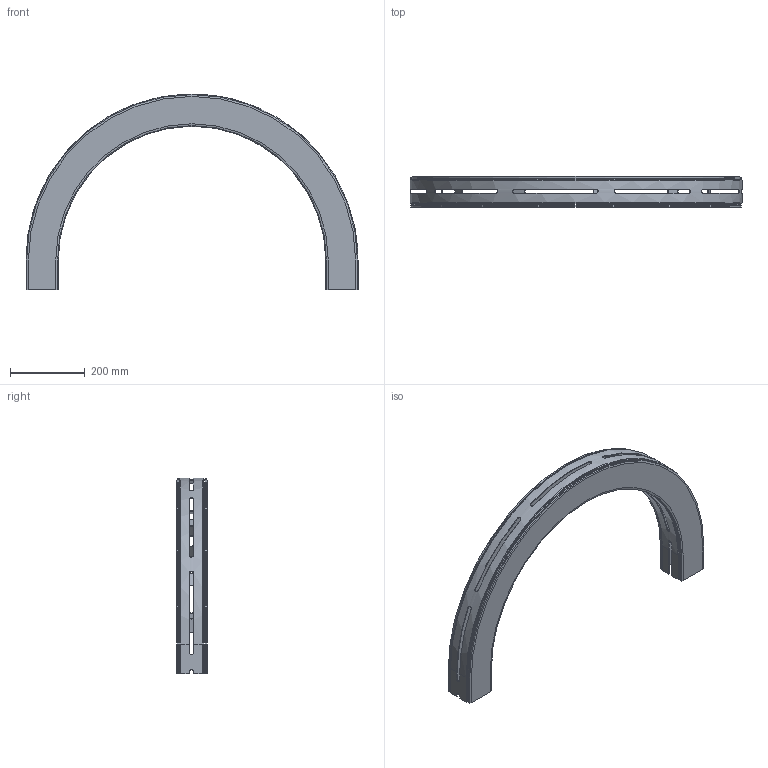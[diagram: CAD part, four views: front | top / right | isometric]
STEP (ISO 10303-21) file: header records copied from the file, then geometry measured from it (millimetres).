
FILE_DESCRIPTION(/* description */ ('GLIDKURVA SERIE 530'),/* implementation_level */ '2;1');
FILE_NAME(/* name */ '530-5375+830-2000-01.stp',/* time_stamp */ '2022-09-20T15:10:44+02:00',/* author */ ('Mathias.Dore'),/* organization */ ('CARRYLINE'),/* preprocessor_version */ 'ST-DEVELOPER v19.2',/* originating_system */ 'Autodesk Inventor 2023',/* authorisation */ '');
FILE_SCHEMA (('AUTOMOTIVE_DESIGN { 1 0 10303 214 3 1 1 }'));
Length unit declared in the file: millimetre
Products named in the file (1): 530-5375+830-2000-01
Bounding box: 886 x 82 x 523 mm (x, y, z)
Volume: 2051934.9 mm3; surface area: 979964.2 mm2
Topology: 2 solids, 2 shells, 203 faces, 578 edges, 380 vertices
Faces by surface type: plane 129, bspline 34, cylinder 32, torus 4, cone 4
Entity records: 7785 total; most frequent: CARTESIAN_POINT 2480, ORIENTED_EDGE 1156, DIRECTION 970, EDGE_CURVE 578, LINE 390, VECTOR 390, VERTEX_POINT 380, AXIS2_PLACEMENT_3D 290
